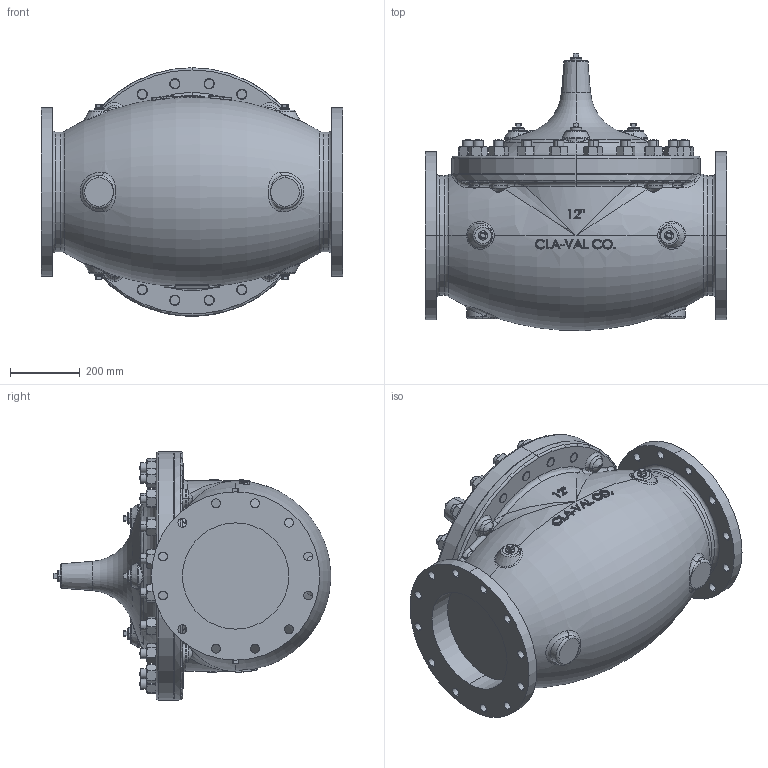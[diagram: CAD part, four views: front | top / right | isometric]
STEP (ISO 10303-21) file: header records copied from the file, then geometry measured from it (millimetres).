
FILE_DESCRIPTION (( 'STEP AP203' ), '1' );
FILE_NAME ('12in 100-01 150AG.STEP', '2018-09-05T20:00:33', ( '' ), ( '' ), 'SwSTEP 2.0', 'SolidWorks 2017', '' );
FILE_SCHEMA (( 'CONFIG_CONTROL_DESIGN' ));
Length unit declared in the file: inch
Products named in the file (7): Hexnut 1.250-7 UNC (67820)_ASF-STEEL,CP; .750 NPT PIPE PLUG (67660)_Default STEEL, CAD PL; 1.0 NPT SQ HD PIPE PLUG (67660)_18-8 SST; 12in 100-01 150AG; 12in Body HyGl150A STD_Default 150 FLAT FACE; 12in Cover 100-01_Default (No Spotface); STUD 1.250-7 UNC (42786)_18-8 SST 4.90 LG
Assembly tree (51 placements, depth 2):
  12in 100-01 150AG
    12in Body HyGl150A STD_Default 150 FLAT FACE
    12in Cover 100-01_Default (No Spotface)
    STUD 1.250-7 UNC (42786)_18-8 SST 4.90 LG  x20
    Hexnut 1.250-7 UNC (67820)_ASF-STEEL,CP  x20
    .750 NPT PIPE PLUG (67660)_Default STEEL, CAD PL  x4
    1.0 NPT SQ HD PIPE PLUG (67660)_18-8 SST  x5
Bounding box: 863.6 x 794.62 x 712.72 mm (x, y, z)
Volume: 170455043.5 mm3; surface area: 3949603.5 mm2
Topology: 51 solids, 51 shells, 2549 faces, 5820 edges, 3378 vertices
Faces by surface type: cone 805, cylinder 562, bspline 424, plane 419, torus 210, sphere 129
Entity records: 67212 total; most frequent: CARTESIAN_POINT 36958, ORIENTED_EDGE 6384, DIRECTION 5276, EDGE_CURVE 3192, AXIS2_PLACEMENT_3D 2257, VERTEX_POINT 1955, EDGE_LOOP 1511, ADVANCED_FACE 1323
